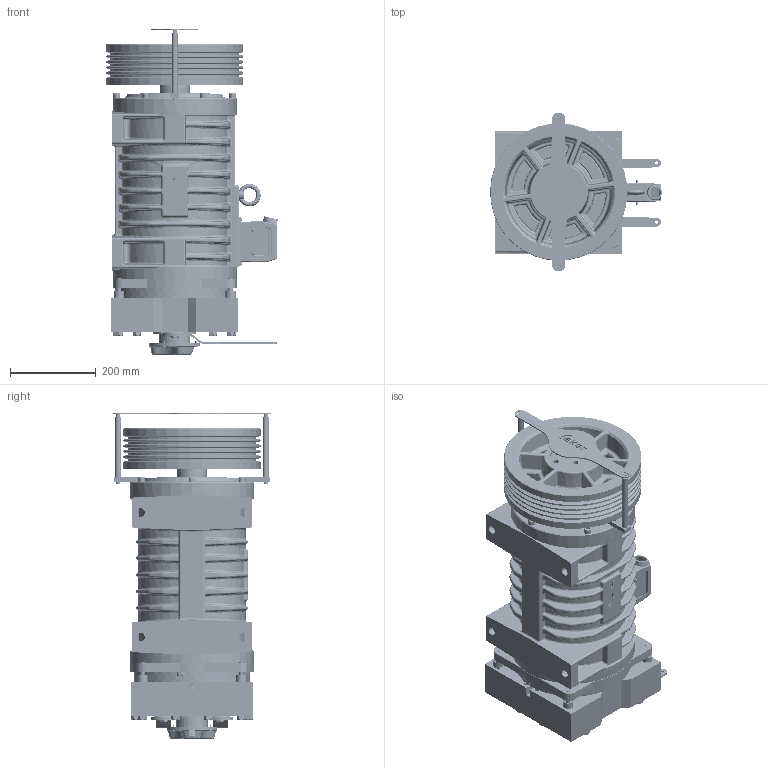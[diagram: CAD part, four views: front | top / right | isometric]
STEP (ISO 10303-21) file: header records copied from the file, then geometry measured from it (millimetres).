
FILE_DESCRIPTION (( 'STEP AP214' ), '1' );
FILE_NAME ('QS43280100.STEP', '2026-01-02T05:57:08', ( '' ), ( '' ), 'SwSTEP 2.0', 'SolidWorks 2023', '' );
FILE_SCHEMA (( 'AUTOMOTIVE_DESIGN' ));
Length unit declared in the file: millimetre
Products named in the file (1): QS43280100
Bounding box: 400.03 x 370 x 759.2 mm (x, y, z)
Volume: 22641075.9 mm3; surface area: 3567657.9 mm2
Topology: 107 solids, 107 shells, 4839 faces, 11450 edges, 6854 vertices
Faces by surface type: cylinder 1584, plane 1359, bspline 876, cone 517, torus 341, sphere 162
Entity records: 200651 total; most frequent: CARTESIAN_POINT 95009, ORIENTED_EDGE 22366, DIRECTION 21243, EDGE_CURVE 11183, AXIS2_PLACEMENT_3D 8573, VERTEX_POINT 6818, EDGE_LOOP 5381, ADVANCED_FACE 4839
